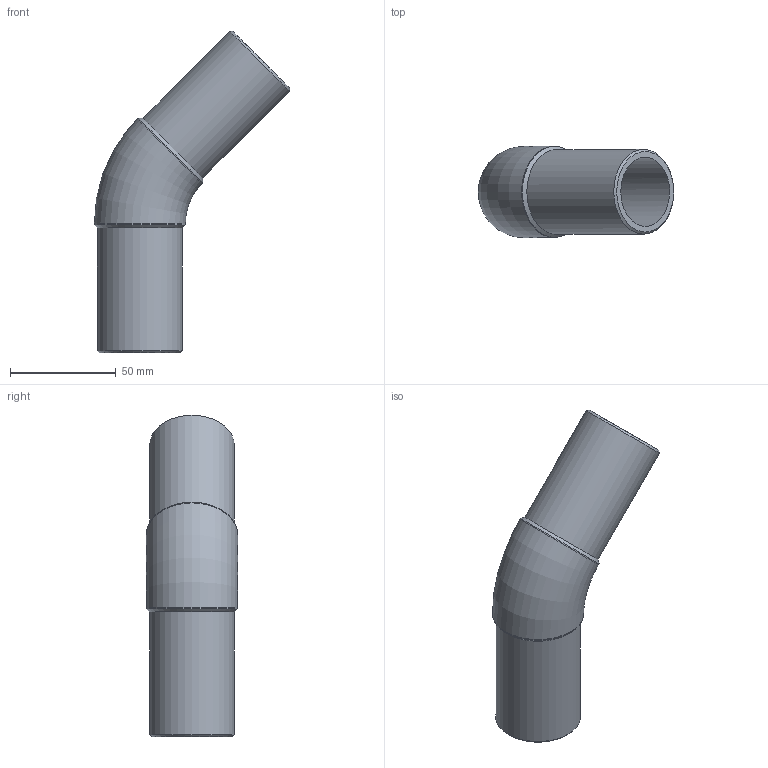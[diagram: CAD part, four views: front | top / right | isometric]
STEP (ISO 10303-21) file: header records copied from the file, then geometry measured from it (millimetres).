
FILE_DESCRIPTION(/* description */ ('Unknown'),/* implementation_level */ '2;1');
FILE_NAME(/* name */ 'G4P040C',/* time_stamp */ '2022-01-19T09:12:51+01:00',/* author */ ('Unknown'),/* organization */ ('Unknown'),/* preprocessor_version */ 'ST-DEVELOPER v18.1',/* originating_system */ 'Solid Edge',/* authorisation */ 'Unknown');
FILE_SCHEMA (('AUTOMOTIVE_DESIGN {1 0 10303 214 3 1 1}'));
Length unit declared in the file: millimetre
Products named in the file (1): G4P040C
Bounding box: 92.21 x 43 x 151.71 mm (x, y, z)
Volume: 76147.5 mm3; surface area: 37695.2 mm2
Topology: 1 solids, 1 shells, 14 faces, 34 edges, 22 vertices
Faces by surface type: cylinder 6, cone 4, plane 2, torus 2
Full cylindrical faces by diameter (mm): 32.6 x2, 40 x2, 43 x2
Entity records: 366 total; most frequent: CARTESIAN_POINT 66, DIRECTION 60, ORIENTED_EDGE 38, AXIS2_PLACEMENT_3D 30, EDGE_LOOP 27, FACE_BOUND 27, EDGE_CURVE 19, VERTEX_POINT 18
